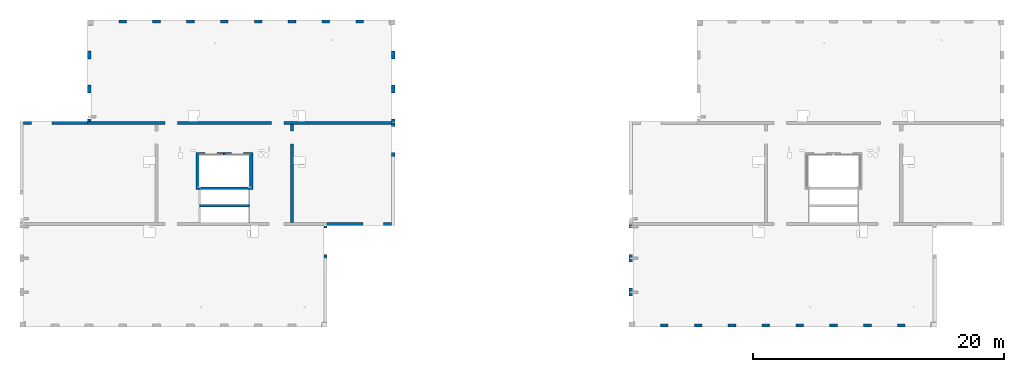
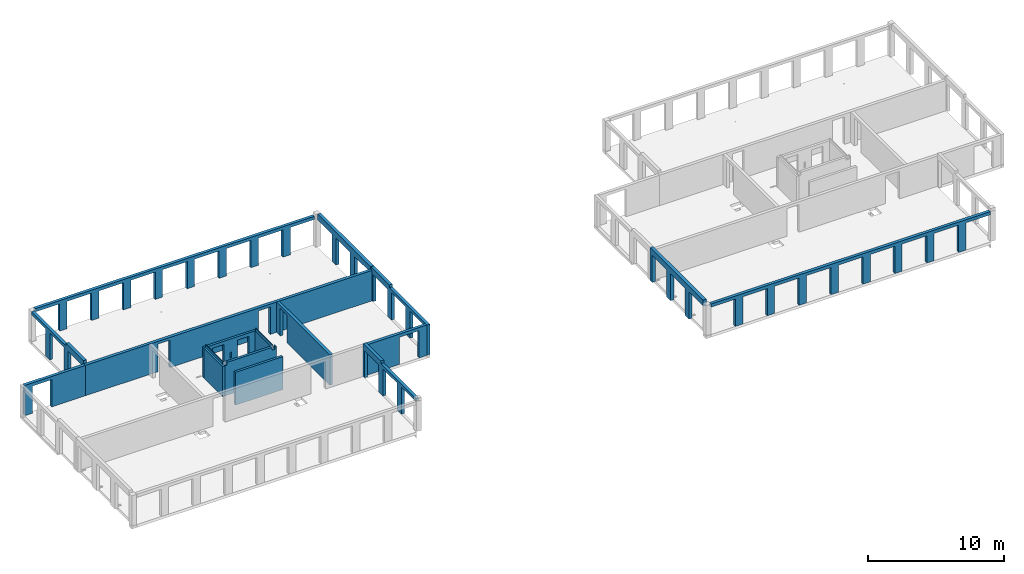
# One storey, part 3 of 8: 18 walls, 46 openings.
"""IFC2X3 building model written with IfcOpenShell, lengths in millimetres."""

from ifc_helpers import new_model, entity, si_unit, converted_unit, derived_unit, direction, frame, frame_2d, origin, origin_2d_with_axis, place, context, subcontext, project, spatial, rectangle, extrude, material, layer, layer_set, layer_usage, type_object, element, save


model = new_model("IFC2X3")

# Units and contexts
model_context = context("Model", 3, precision=0.01, world=origin(), true_north=direction((6.12303176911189e-17, 1.0)))
body_context = subcontext(model_context, "Body", "Model", "MODEL_VIEW")
ifc_project = project(units=[si_unit("LENGTHUNIT", "METRE", prefix="MILLI"), si_unit("AREAUNIT", "SQUARE_METRE"), si_unit("VOLUMEUNIT", "CUBIC_METRE"), converted_unit("PLANEANGLEUNIT", "DEGREE", entity("IfcRatioMeasure", 0.0174532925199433), si_unit("PLANEANGLEUNIT", "RADIAN"), dimensions=[0, 0, 0, 0, 0, 0, 0]), si_unit("MASSUNIT", "GRAM", prefix="KILO"), derived_unit("MASSDENSITYUNIT", [(si_unit("MASSUNIT", "GRAM", prefix="KILO"), 1), (si_unit("LENGTHUNIT", "METRE"), -3)]), si_unit("TIMEUNIT", "SECOND"), si_unit("FREQUENCYUNIT", "HERTZ"), si_unit("THERMODYNAMICTEMPERATUREUNIT", "DEGREE_CELSIUS"), derived_unit("THERMALTRANSMITTANCEUNIT", [(si_unit("MASSUNIT", "GRAM", prefix="KILO"), 1), (si_unit("THERMODYNAMICTEMPERATUREUNIT", "KELVIN"), -1), (si_unit("TIMEUNIT", "SECOND"), -3)]), derived_unit("VOLUMETRICFLOWRATEUNIT", [(si_unit("LENGTHUNIT", "METRE"), 3), (si_unit("TIMEUNIT", "SECOND"), -1)]), si_unit("ELECTRICCURRENTUNIT", "AMPERE"), si_unit("ELECTRICVOLTAGEUNIT", "VOLT"), si_unit("POWERUNIT", "WATT"), si_unit("FORCEUNIT", "NEWTON", prefix="KILO"), si_unit("ILLUMINANCEUNIT", "LUX"), si_unit("LUMINOUSFLUXUNIT", "LUMEN"), si_unit("LUMINOUSINTENSITYUNIT", "CANDELA"), derived_unit("USERDEFINED", [(si_unit("MASSUNIT", "GRAM", prefix="KILO"), -1), (si_unit("LENGTHUNIT", "METRE"), -2), (si_unit("TIMEUNIT", "SECOND"), 3), (si_unit("LUMINOUSFLUXUNIT", "LUMEN"), 1)]), derived_unit("LINEARVELOCITYUNIT", [(si_unit("LENGTHUNIT", "METRE"), 1), (si_unit("TIMEUNIT", "SECOND"), -1)]), si_unit("PRESSUREUNIT", "PASCAL"), derived_unit("USERDEFINED", [(si_unit("LENGTHUNIT", "METRE"), -2), (si_unit("MASSUNIT", "GRAM", prefix="KILO"), 1), (si_unit("TIMEUNIT", "SECOND"), -2)])], contexts=[model_context])

# Site, building, storey
site_placement = place(None, origin())
site = spatial("IfcSite", under=ifc_project, at=site_placement, Name="Default", CompositionType="ELEMENT")
building_placement = place(site_placement, origin())
building = spatial("IfcBuilding", under=site, at=building_placement, Name="niet gebruiken", CompositionType="ELEMENT")
storey_placement = place(building_placement, frame((0.0, 0.0, 39330.0)))
storey = spatial("IfcBuildingStorey", under=building, at=storey_placement, Name="13 dertiende verdieping", CompositionType="ELEMENT", Elevation=39330.0)

# Wall, opening
ifc_material_1 = material(Name="NLRS_f2_beton ihwg")
ifc_layer_1 = layer(ifc_material_1, 250.0)
ifc_layer_set_1 = layer_set([ifc_layer_1], Name="Basic Wall:NLRS_22.21_WA_beton ihwg d=250_gen")
ifc_layer_usage_1 = layer_usage(ifc_layer_set_1, "AXIS2", "NEGATIVE", 125.0)
wall_type_1 = type_object("IfcWallType", Name="Basic Wall:NLRS_22.21_WA_beton ihwg d=250_gen", PredefinedType="STANDARD", material=ifc_layer_set_1)
wall_1_placement = place(storey_placement, frame((27170.0, 45031.0, -90.0)))
wall_1 = element("IfcWallStandardCase", 1, at=wall_1_placement, inside=storey, type_object=wall_type_1, material=ifc_layer_usage_1, Name="Basic Wall:NLRS_22.21_WA_beton ihwg d=250_gen", ObjectType="Basic Wall:NLRS_22.21_WA_beton ihwg d=250_gen", context=body_context, shape_type="SweptSolid", body=[
    extrude(rectangle(XDim=5130.0, YDim=249.999999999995, at=frame_2d((2565.0, 0.0), x_axis=(-1.0, 0.0))), origin(), (0.0, 0.0, 1.0), 2719.99999999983),
])
opening_1_placement = place(wall_1_placement, origin())
element("IfcOpeningElement", 2, at=opening_1_placement, cuts=wall_1, Name="Basic Wall:NLRS_22.21_WA_beton ihwg d=250_gen", ObjectType="Opening", context=body_context, shape_type="SweptSolid", body=[
    extrude(rectangle(XDim=2440.0, YDim=1640.0, at=origin_2d_with_axis()), frame((1460.0, -1649.0, 1220.0), z_axis=(0.0, 1.0, 0.0), x_axis=(0.0, 0.0, 1.0)), (0.0, 0.0, 1.0), 3048.0),
])

ifc_layer_usage_2 = layer_usage(ifc_layer_set_1, "AXIS2", "NEGATIVE", 125.0)
wall_2_placement = place(storey_placement, frame((48600.0, 44906.0, -90.0), z_axis=(0.0, 0.0, 1.0), x_axis=(0.0, -1.0, 0.0)))
wall_2 = element("IfcWallStandardCase", 3, at=wall_2_placement, inside=storey, type_object=wall_type_1, material=ifc_layer_usage_2, Name="Basic Wall:NLRS_22.21_WA_beton ihwg d=250_gen", ObjectType="Basic Wall:NLRS_22.21_WA_beton ihwg d=250_gen", context=body_context, shape_type="SweptSolid", body=[
    extrude(rectangle(XDim=7799.99999999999, YDim=249.999999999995, at=frame_2d((3900.0, 0.0), x_axis=(-1.0, 0.0))), origin(), (0.0, 0.0, 1.0), 2719.99999999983),
])
opening_2_placement = place(wall_2_placement, origin())
element("IfcOpeningElement", 4, at=opening_2_placement, cuts=wall_2, Name="Basic Wall:NLRS_22.21_WA_beton ihwg d=250_gen", ObjectType="Opening", context=body_context, shape_type="SweptSolid", body=[
    extrude(rectangle(XDim=2470.0, YDim=1006.0, at=frame_2d((4.43378667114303e-12, 0.0), x_axis=(1.0, 0.0))), frame((1027.0, -1649.0, 1235.0), z_axis=(0.0, 1.0, 0.0), x_axis=(0.0, 0.0, 1.0)), (0.0, 0.0, 1.0), 3048.0),
])

# Wall, openings
ifc_layer_usage_3 = layer_usage(ifc_layer_set_1, "AXIS2", "NEGATIVE", 125.0)
wall_3_placement = place(storey_placement, frame((32300.0, 45031.0, -90.0)))
wall_3 = element("IfcWallStandardCase", 5, at=wall_3_placement, inside=storey, type_object=wall_type_1, material=ifc_layer_usage_3, Name="Basic Wall:NLRS_22.21_WA_beton ihwg d=250_gen", ObjectType="Basic Wall:NLRS_22.21_WA_beton ihwg d=250_gen", context=body_context, shape_type="SweptSolid", body=[
    extrude(rectangle(XDim=24250.0, YDim=249.999999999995, at=frame_2d((12125.0, 0.0), x_axis=(-1.0, 0.0))), origin(), (0.0, 0.0, 1.0), 2719.99999999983),
])
opening_3_placement = place(wall_3_placement, origin())
element("IfcOpeningElement", 6, at=opening_3_placement, cuts=wall_3, Name="Basic Wall:NLRS_22.21_WA_beton ihwg d=250_gen", ObjectType="Opening", context=body_context, shape_type="SweptSolid", body=[
    extrude(rectangle(XDim=2470.0, YDim=1006.0, at=frame_2d((-4.43378667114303e-12, 0.0), x_axis=(1.0, 0.0))), frame((15148.0, -1649.0, 1235.0), z_axis=(0.0, 1.0, 0.0), x_axis=(0.0, 0.0, 1.0)), (0.0, 0.0, 1.0), 3048.0),
])
opening_4_placement = place(wall_3_placement, origin())
element("IfcOpeningElement", 7, at=opening_4_placement, cuts=wall_3, Name="Basic Wall:NLRS_22.21_WA_beton ihwg d=250_gen", ObjectType="Opening", context=body_context, shape_type="SweptSolid", body=[
    extrude(rectangle(XDim=2470.0, YDim=1006.0, at=frame_2d((4.43378667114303e-12, 2.1600499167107e-12), x_axis=(1.0, 0.0))), frame((6652.0, -1649.0, 1235.0), z_axis=(0.0, 1.0, 0.0), x_axis=(0.0, 0.0, 1.0)), (0.0, 0.0, 1.0), 3048.0),
])

# Wall, opening
ifc_layer_usage_4 = layer_usage(ifc_layer_set_1, "AXIS2", "NEGATIVE", 125.0)
wall_4_placement = place(storey_placement, frame((51400.0, 36981.0, -90.0)))
wall_4 = element("IfcWallStandardCase", 8, at=wall_4_placement, inside=storey, type_object=wall_type_1, material=ifc_layer_usage_4, Name="Basic Wall:NLRS_22.21_WA_beton ihwg d=250_gen", ObjectType="Basic Wall:NLRS_22.21_WA_beton ihwg d=250_gen", context=body_context, shape_type="SweptSolid", body=[
    extrude(rectangle(XDim=5150.0, YDim=250.000000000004, at=frame_2d((2575.0, 0.0), x_axis=(-1.0, 0.0))), origin(), (0.0, 0.0, 1.0), 2719.99999999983),
])
opening_5_placement = place(wall_4_placement, origin())
element("IfcOpeningElement", 9, at=opening_5_placement, cuts=wall_4, Name="Basic Wall:NLRS_22.21_WA_beton ihwg d=250_gen", ObjectType="Opening", context=body_context, shape_type="SweptSolid", body=[
    extrude(rectangle(XDim=2440.0, YDim=1640.0, at=frame_2d((-4.37694325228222e-12, 0.0), x_axis=(0.0, 1.0))), frame((3670.0, -1399.0, 1220.0), z_axis=(0.0, 1.0, 0.0), x_axis=(-1.0, 0.0, 0.0)), (0.0, 0.0, 1.0), 3048.0),
])

# Wall, openings
ifc_material_2 = material(Name="NLRS_f2_beton prefab")
ifc_layer_2 = layer(ifc_material_2, 250.0)
ifc_layer_set_2 = layer_set([ifc_layer_2], Name="Basic Wall:NLRS_21.21_WA_beton prefab d=250_gen")
ifc_layer_usage_5 = layer_usage(ifc_layer_set_2, "AXIS2", "NEGATIVE", 125.0)
wall_type_2 = type_object("IfcWallType", Name="Basic Wall:NLRS_21.21_WA_beton prefab d=250_gen", PredefinedType="STANDARD", material=ifc_layer_set_2)
wall_5_placement = place(storey_placement, frame((32425.0, 52846.0, -70.0), z_axis=(0.0, 0.0, 1.0), x_axis=(0.0, -1.0, 0.0)))
wall_5 = element("IfcWallStandardCase", 10, at=wall_5_placement, inside=storey, type_object=wall_type_2, material=ifc_layer_usage_5, Name="Basic Wall:NLRS_21.21_WA_beton prefab d=250_gen", ObjectType="Basic Wall:NLRS_21.21_WA_beton prefab d=250_gen", context=body_context, shape_type="SweptSolid", body=[
    extrude(rectangle(XDim=7670.00000000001, YDim=250.000000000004, at=frame_2d((3835.0, 0.0), x_axis=(-1.0, 0.0))), origin(), (0.0, 0.0, 1.0), 2949.99999999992),
])
opening_6_placement = place(wall_5_placement, origin())
element("IfcOpeningElement", 11, at=opening_6_placement, cuts=wall_5, Name="Basic Wall:NLRS_21.21_WA_beton prefab d=250_gen", ObjectType="Opening", context=body_context, shape_type="SweptSolid", body=[
    extrude(rectangle(XDim=2420.0, YDim=2080.0, at=frame_2d((0.0, 0.0), x_axis=(0.0, 1.0))), frame((1040.0, -1399.0, 1210.0), z_axis=(0.0, 1.0, 0.0), x_axis=(-1.0, 0.0, 0.0)), (0.0, 0.0, 1.0), 3048.0),
])
opening_7_placement = place(wall_5_placement, origin())
element("IfcOpeningElement", 12, at=opening_7_placement, cuts=wall_5, Name="Basic Wall:NLRS_21.21_WA_beton prefab d=250_gen", ObjectType="Opening", context=body_context, shape_type="SweptSolid", body=[
    extrude(rectangle(XDim=2420.0, YDim=2080.0, at=frame_2d((0.0, 0.0), x_axis=(0.0, 1.0))), frame((3740.0, -1399.0, 1210.0), z_axis=(0.0, 1.0, 0.0), x_axis=(-1.0, 0.0, 0.0)), (0.0, 0.0, 1.0), 3048.0),
])
opening_8_placement = place(wall_5_placement, origin())
element("IfcOpeningElement", 13, at=opening_8_placement, cuts=wall_5, Name="Basic Wall:NLRS_21.21_WA_beton prefab d=250_gen", ObjectType="Opening", context=body_context, shape_type="SweptSolid", body=[
    extrude(rectangle(XDim=2420.0, YDim=2080.0, at=frame_2d((0.0, 0.0), x_axis=(0.0, 1.0))), frame((6440.0, -1399.0, 1210.0), z_axis=(0.0, 1.0, 0.0), x_axis=(-1.0, 0.0, 0.0)), (0.0, 0.0, 1.0), 3048.0),
])
opening_9_placement = place(wall_5_placement, origin())
element("IfcOpeningElement", 14, at=opening_9_placement, cuts=wall_5, Name="Basic Wall:NLRS_21.21_WA_beton prefab d=250_gen", ObjectType="Opening", context=body_context, shape_type="SweptSolid", body=[
    extrude(rectangle(XDim=250.000000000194, YDim=5089.99999999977, at=frame_2d((4.32009983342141e-12, 4.32720526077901e-12), x_axis=(0.0, 1.0))), frame((2545.0, 125.0, 2825.0), z_axis=(0.0, -1.0, 0.0), x_axis=(-1.0, 0.0, 0.0)), (0.0, 0.0, 1.0), 250.0),
])

ifc_layer_usage_6 = layer_usage(ifc_layer_set_2, "AXIS2", "NEGATIVE", 125.0)
wall_6_placement = place(storey_placement, frame((56675.0, 45046.0, -70.0), z_axis=(0.0, 0.0, 1.0), x_axis=(0.0, -1.0, 0.0)))
wall_6 = element("IfcWallStandardCase", 15, at=wall_6_placement, inside=storey, type_object=wall_type_2, material=ifc_layer_usage_6, Name="Basic Wall:NLRS_21.21_WA_beton prefab d=250_gen", ObjectType="Basic Wall:NLRS_21.21_WA_beton prefab d=250_gen", context=body_context, shape_type="SweptSolid", body=[
    extrude(rectangle(XDim=8189.99999999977, YDim=249.999999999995, at=frame_2d((4094.99999999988, 0.0), x_axis=(-1.0, 0.0))), origin(), (0.0, 0.0, 1.0), 2949.99999999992),
])
opening_10_placement = place(wall_6_placement, origin())
element("IfcOpeningElement", 16, at=opening_10_placement, cuts=wall_6, Name="Basic Wall:NLRS_21.21_WA_beton prefab d=250_gen", ObjectType="Opening", context=body_context, shape_type="SweptSolid", body=[
    extrude(rectangle(XDim=2420.0, YDim=2080.0, at=frame_2d((0.0, 0.0), x_axis=(0.0, 1.0))), frame((1340.0, -1399.0, 1210.0), z_axis=(0.0, 1.0, 0.0), x_axis=(-1.0, 0.0, 0.0)), (0.0, 0.0, 1.0), 3048.0),
])
opening_11_placement = place(wall_6_placement, origin())
element("IfcOpeningElement", 17, at=opening_11_placement, cuts=wall_6, Name="Basic Wall:NLRS_21.21_WA_beton prefab d=250_gen", ObjectType="Opening", context=body_context, shape_type="SweptSolid", body=[
    extrude(rectangle(XDim=2420.0, YDim=2080.0, at=frame_2d((0.0, 0.0), x_axis=(0.0, 1.0))), frame((4040.0, -1399.0, 1210.0), z_axis=(0.0, 1.0, 0.0), x_axis=(-1.0, 0.0, 0.0)), (0.0, 0.0, 1.0), 3048.0),
])
opening_12_placement = place(wall_6_placement, origin())
element("IfcOpeningElement", 18, at=opening_12_placement, cuts=wall_6, Name="Basic Wall:NLRS_21.21_WA_beton prefab d=250_gen", ObjectType="Opening", context=body_context, shape_type="SweptSolid", body=[
    extrude(rectangle(XDim=2420.0, YDim=2080.0, at=frame_2d((0.0, 0.0), x_axis=(0.0, 1.0))), frame((6740.0, -1399.0, 1210.0), z_axis=(0.0, 1.0, 0.0), x_axis=(-1.0, 0.0, 0.0)), (0.0, 0.0, 1.0), 3048.0),
])
opening_13_placement = place(wall_6_placement, origin())
element("IfcOpeningElement", 19, at=opening_13_placement, cuts=wall_6, Name="Basic Wall:NLRS_21.21_WA_beton prefab d=250_gen", ObjectType="Opening", context=body_context, shape_type="SweptSolid", body=[
    extrude(rectangle(XDim=249.999999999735, YDim=5500.0000000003, at=frame_2d((0.0, -4.32009983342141e-12), x_axis=(1.0, 0.0))), frame((5440.0, 125.0, 2825.0), z_axis=(0.0, -1.0, 0.0), x_axis=(0.0, 0.0, 1.0)), (0.0, 0.0, 1.0), 250.0),
])

ifc_layer_usage_7 = layer_usage(ifc_layer_set_2, "AXIS2", "NEGATIVE", 125.0)
wall_7_placement = place(storey_placement, frame((51275.0, 29166.0, -70.0), z_axis=(0.0, 0.0, 1.0), x_axis=(0.0, 1.0, 0.0)))
wall_7 = element("IfcWallStandardCase", 20, at=wall_7_placement, inside=storey, type_object=wall_type_2, material=ifc_layer_usage_7, Name="Basic Wall:NLRS_21.21_WA_beton prefab d=250_gen", ObjectType="Basic Wall:NLRS_21.21_WA_beton prefab d=250_gen", context=body_context, shape_type="SweptSolid", body=[
    extrude(rectangle(XDim=7669.99999999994, YDim=249.999999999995, at=frame_2d((3834.99999999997, 0.0), x_axis=(-1.0, 0.0))), origin(), (0.0, 0.0, 1.0), 2949.99999999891),
])
opening_14_placement = place(wall_7_placement, origin())
element("IfcOpeningElement", 21, at=opening_14_placement, cuts=wall_7, Name="Basic Wall:NLRS_21.21_WA_beton prefab d=250_gen", ObjectType="Opening", context=body_context, shape_type="SweptSolid", body=[
    extrude(rectangle(XDim=2420.0, YDim=2080.0, at=frame_2d((-2.1600499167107e-12, 0.0), x_axis=(0.0, 1.0))), frame((1040.0, -1399.0, 1210.0), z_axis=(0.0, 1.0, 0.0), x_axis=(-1.0, 0.0, 0.0)), (0.0, 0.0, 1.0), 3048.0),
])
opening_15_placement = place(wall_7_placement, origin())
element("IfcOpeningElement", 22, at=opening_15_placement, cuts=wall_7, Name="Basic Wall:NLRS_21.21_WA_beton prefab d=250_gen", ObjectType="Opening", context=body_context, shape_type="SweptSolid", body=[
    extrude(rectangle(XDim=2420.0, YDim=2080.0, at=frame_2d((2.1600499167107e-12, 0.0), x_axis=(0.0, 1.0))), frame((6440.0, -1399.0, 1210.0), z_axis=(0.0, 1.0, 0.0), x_axis=(-1.0, 0.0, 0.0)), (0.0, 0.0, 1.0), 3048.0),
])
opening_16_placement = place(wall_7_placement, origin())
element("IfcOpeningElement", 23, at=opening_16_placement, cuts=wall_7, Name="Basic Wall:NLRS_21.21_WA_beton prefab d=250_gen", ObjectType="Opening", context=body_context, shape_type="SweptSolid", body=[
    extrude(rectangle(XDim=2420.0, YDim=2080.0, at=frame_2d((2.1600499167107e-12, 0.0), x_axis=(0.0, 1.0))), frame((3740.0, -1399.0, 1210.0), z_axis=(0.0, 1.0, 0.0), x_axis=(-1.0, 0.0, 0.0)), (0.0, 0.0, 1.0), 3048.0),
])
opening_17_placement = place(wall_7_placement, origin())
element("IfcOpeningElement", 24, at=opening_17_placement, cuts=wall_7, Name="Basic Wall:NLRS_21.21_WA_beton prefab d=250_gen", ObjectType="Opening", context=body_context, shape_type="SweptSolid", body=[
    extrude(rectangle(XDim=249.999999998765, YDim=5090.00000000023, at=frame_2d((0.0, 0.0), x_axis=(0.0, 1.0))), frame((2545.0, 125.0, 2825.0), z_axis=(0.0, -1.0, 0.0), x_axis=(-1.0, 0.0, 0.0)), (0.0, 0.0, 1.0), 250.0),
])

# Wall
ifc_layer_3 = layer(ifc_material_2, 200.0)
ifc_layer_set_3 = layer_set([ifc_layer_3], Name="Basic Wall:NLRS_21.21_WA_beton prefab d=200_gen")
ifc_layer_usage_8 = layer_usage(ifc_layer_set_3, "AXIS2", "NEGATIVE", 100.0)
wall_type_3 = type_object("IfcWallType", Name="Basic Wall:NLRS_21.21_WA_beton prefab d=200_gen", PredefinedType="STANDARD", material=ifc_layer_set_3)
wall_8_placement = place(storey_placement, frame((41200.0, 38426.0, -70.0)))
element("IfcWallStandardCase", 25, at=wall_8_placement, inside=storey, type_object=wall_type_3, material=ifc_layer_usage_8, Name="Basic Wall:NLRS_21.21_WA_beton prefab d=200_gen", ObjectType="Basic Wall:NLRS_21.21_WA_beton prefab d=200_gen", context=body_context, shape_type="SweptSolid", body=[
    extrude(rectangle(XDim=3999.99999999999, YDim=199.999999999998, at=frame_2d((2000.0, 0.0), x_axis=(-1.0, 0.0))), origin(), (0.0, 0.0, 1.0), 2950.00000000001),
])

# Wall, openings
ifc_layer_4 = layer(ifc_material_2, 200.0)
ifc_layer_set_4 = layer_set([ifc_layer_4], Name="Basic Wall:NLRS_22.21_WA_beton prefab d=200_gen")
ifc_layer_usage_9 = layer_usage(ifc_layer_set_4, "AXIS2", "NEGATIVE", 100.0)
wall_type_4 = type_object("IfcWallType", Name="Basic Wall:NLRS_22.21_WA_beton prefab d=200_gen", PredefinedType="STANDARD", material=ifc_layer_set_4)
wall_9_placement = place(storey_placement, frame((40925.0, 42596.0, -70.0)))
wall_9 = element("IfcWallStandardCase", 26, at=wall_9_placement, inside=storey, type_object=wall_type_4, material=ifc_layer_usage_9, Name="Basic Wall:NLRS_22.21_WA_beton prefab d=200_gen", ObjectType="Basic Wall:NLRS_22.21_WA_beton prefab d=200_gen", context=body_context, shape_type="SweptSolid", body=[
    extrude(rectangle(XDim=4549.99999999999, YDim=200.000000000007, at=frame_2d((2274.99999999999, 7.8159700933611e-13), x_axis=(-1.0, 0.0))), origin(), (0.0, 0.0, 1.0), 2700.00000000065),
])
opening_18_placement = place(wall_9_placement, origin())
element("IfcOpeningElement", 27, at=opening_18_placement, cuts=wall_9, Name="Basic Wall:NLRS_22.21_WA_beton prefab d=200_gen", ObjectType="Opening", context=body_context, shape_type="SweptSolid", body=[
    extrude(rectangle(XDim=2430.0, YDim=980.000000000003, at=origin_2d_with_axis()), frame((1219.99984910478, -1624.0, 1195.0), z_axis=(0.0, 1.0, 0.0), x_axis=(0.0, 0.0, 1.0)), (0.0, 0.0, 1.0), 3048.0),
])
opening_19_placement = place(wall_9_placement, origin())
element("IfcOpeningElement", 28, at=opening_19_placement, cuts=wall_9, Name="Basic Wall:NLRS_22.21_WA_beton prefab d=200_gen", ObjectType="Opening", context=body_context, shape_type="SweptSolid", body=[
    extrude(rectangle(XDim=2430.0, YDim=980.000000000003, at=origin_2d_with_axis()), frame((3329.99984910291, -1624.0, 1195.0), z_axis=(0.0, 1.0, 0.0), x_axis=(0.0, 0.0, 1.0)), (0.0, 0.0, 1.0), 3048.0),
])
opening_20_placement = place(wall_9_placement, origin())
element("IfcOpeningElement", 29, at=opening_20_placement, cuts=wall_9, Name="Basic Wall:NLRS_22.21_WA_beton prefab d=200_gen", ObjectType="Opening", context=body_context, shape_type="SweptSolid", body=[
    extrude(rectangle(XDim=505.000000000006, YDim=135.000000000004, at=frame_2d((-4.33431068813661e-12, 0.0), x_axis=(1.0, 0.0))), frame((2275.0, -1624.0, 1272.49999999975), z_axis=(0.0, 1.0, 0.0), x_axis=(0.0, 0.0, 1.0)), (0.0, 0.0, 1.0), 3048.0),
])

# Wall
ifc_layer_usage_10 = layer_usage(ifc_layer_set_4, "AXIS2", "NEGATIVE", 100.0)
wall_10_placement = place(storey_placement, frame((41025.0, 42496.0, -70.0), z_axis=(0.0, 0.0, 1.0), x_axis=(0.0, -1.0, 0.0)))
element("IfcWallStandardCase", 30, at=wall_10_placement, inside=storey, type_object=wall_type_4, material=ifc_layer_usage_10, Name="Basic Wall:NLRS_22.21_WA_beton prefab d=200_gen", ObjectType="Basic Wall:NLRS_22.21_WA_beton prefab d=200_gen", context=body_context, shape_type="SweptSolid", body=[
    extrude(rectangle(XDim=2749.99999999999, YDim=200.000000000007, at=frame_2d((1375.0, 0.0), x_axis=(-1.0, 0.0))), origin(), (0.0, 0.0, 1.0), 2699.99999999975),
])

# Wall, openings
ifc_layer_usage_11 = layer_usage(ifc_layer_set_4, "AXIS2", "NEGATIVE", 100.0)
wall_11_placement = place(storey_placement, frame((45475.0, 39846.0, -70.0), z_axis=(0.0, 0.0, 1.0), x_axis=(-1.0, 0.0, 0.0)))
wall_11 = element("IfcWallStandardCase", 31, at=wall_11_placement, inside=storey, type_object=wall_type_4, material=ifc_layer_usage_11, Name="Basic Wall:NLRS_22.21_WA_beton prefab d=200_gen", ObjectType="Basic Wall:NLRS_22.21_WA_beton prefab d=200_gen", context=body_context, shape_type="SweptSolid", body=[
    extrude(rectangle(XDim=4349.99999999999, YDim=200.000000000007, at=frame_2d((2174.99999999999, 0.0), x_axis=(-1.0, 0.0))), origin(), (0.0, 0.0, 1.0), 2949.99999999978),
])
opening_21_placement = place(wall_11_placement, origin())
element("IfcOpeningElement", 32, at=opening_21_placement, cuts=wall_11, Name="Basic Wall:NLRS_22.21_WA_beton prefab d=200_gen", ObjectType="Opening", context=body_context, shape_type="SweptSolid", body=[
    extrude(rectangle(XDim=249.999999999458, YDim=274.9999671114, at=frame_2d((0.0, -4.33431068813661e-12), x_axis=(1.0, 0.0))), frame((4312.50001644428, 100.0, 2825.0), z_axis=(0.0, -1.0, 0.0), x_axis=(0.0, 0.0, 1.0)), (0.0, 0.0, 1.0), 200.0),
])
opening_22_placement = place(wall_11_placement, origin())
element("IfcOpeningElement", 33, at=opening_22_placement, cuts=wall_11, Name="Basic Wall:NLRS_22.21_WA_beton prefab d=200_gen", ObjectType="Opening", context=body_context, shape_type="SweptSolid", body=[
    extrude(rectangle(XDim=249.999999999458, YDim=274.999967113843, at=frame_2d((-4.32009983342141e-12, 0.0), x_axis=(0.0, 1.0))), frame((237.499983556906, 100.0, 2825.0), z_axis=(0.0, -1.0, 0.0), x_axis=(-1.0, 0.0, 0.0)), (0.0, 0.0, 1.0), 200.0),
])

# Wall
ifc_layer_usage_12 = layer_usage(ifc_layer_set_4, "AXIS2", "NEGATIVE", 100.0)
wall_12_placement = place(storey_placement, frame((45375.0, 39946.0, -70.0), z_axis=(0.0, 0.0, 1.0), x_axis=(0.0, 1.0, 0.0)))
element("IfcWallStandardCase", 34, at=wall_12_placement, inside=storey, type_object=wall_type_4, material=ifc_layer_usage_12, Name="Basic Wall:NLRS_22.21_WA_beton prefab d=200_gen", ObjectType="Basic Wall:NLRS_22.21_WA_beton prefab d=200_gen", context=body_context, shape_type="SweptSolid", body=[
    extrude(rectangle(XDim=2549.99999999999, YDim=200.000000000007, at=frame_2d((1275.0, 0.0), x_axis=(-1.0, 0.0))), origin(), (0.0, 0.0, 1.0), 2699.99999999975),
])

# Wall, openings
ifc_layer_5 = layer(ifc_material_1, 250.0)
ifc_layer_set_5 = layer_set([ifc_layer_5], Name="Basic Wall:NLRS_21.21_WA_beton ihwg d=250_gen")
ifc_layer_usage_13 = layer_usage(ifc_layer_set_5, "AXIS2", "NEGATIVE", 125.0)
wall_type_5 = type_object("IfcWallType", Name="Basic Wall:NLRS_21.21_WA_beton ihwg d=250_gen", PredefinedType="STANDARD", material=ifc_layer_set_5)
wall_13_placement = place(storey_placement, frame((75930.0, 28881.0, -90.0)))
wall_13 = element("IfcWallStandardCase", 35, at=wall_13_placement, inside=storey, type_object=wall_type_5, material=ifc_layer_usage_13, Name="Basic Wall:NLRS_21.21_WA_beton ihwg d=250_gen", ObjectType="Basic Wall:NLRS_21.21_WA_beton ihwg d=250_gen", context=body_context, shape_type="SweptSolid", body=[
    extrude(rectangle(XDim=23640.0000000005, YDim=250.000000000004, at=frame_2d((11820.0000000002, -8.66862137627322e-13), x_axis=(-1.0, 0.0))), origin(), (0.0, 0.0, 1.0), 2720.00000000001),
])
opening_23_placement = place(wall_13_placement, origin())
element("IfcOpeningElement", 36, at=opening_23_placement, cuts=wall_13, Name="Basic Wall:NLRS_21.21_WA_beton ihwg d=250_gen", ObjectType="Opening", context=body_context, shape_type="SweptSolid", body=[
    extrude(rectangle(XDim=2440.0, YDim=2080.0, at=frame_2d((8.64019966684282e-12, 0.0), x_axis=(0.0, 1.0))), frame((22620.0, -1399.0, 1220.0), z_axis=(0.0, 1.0, 0.0), x_axis=(-1.0, 0.0, 0.0)), (0.0, 0.0, 1.0), 3048.0),
])
opening_24_placement = place(wall_13_placement, origin())
element("IfcOpeningElement", 37, at=opening_24_placement, cuts=wall_13, Name="Basic Wall:NLRS_21.21_WA_beton ihwg d=250_gen", ObjectType="Opening", context=body_context, shape_type="SweptSolid", body=[
    extrude(rectangle(XDim=2440.0, YDim=2080.0, at=frame_2d((8.64019966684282e-12, 0.0), x_axis=(0.0, 1.0))), frame((19920.0, -1399.0, 1220.0), z_axis=(0.0, 1.0, 0.0), x_axis=(-1.0, 0.0, 0.0)), (0.0, 0.0, 1.0), 3048.0),
])
opening_25_placement = place(wall_13_placement, origin())
element("IfcOpeningElement", 38, at=opening_25_placement, cuts=wall_13, Name="Basic Wall:NLRS_21.21_WA_beton ihwg d=250_gen", ObjectType="Opening", context=body_context, shape_type="SweptSolid", body=[
    extrude(rectangle(XDim=2440.0, YDim=2080.0, at=frame_2d((8.64019966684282e-12, 0.0), x_axis=(0.0, 1.0))), frame((17220.0, -1399.0, 1220.0), z_axis=(0.0, 1.0, 0.0), x_axis=(-1.0, 0.0, 0.0)), (0.0, 0.0, 1.0), 3048.0),
])
opening_26_placement = place(wall_13_placement, origin())
element("IfcOpeningElement", 39, at=opening_26_placement, cuts=wall_13, Name="Basic Wall:NLRS_21.21_WA_beton ihwg d=250_gen", ObjectType="Opening", context=body_context, shape_type="SweptSolid", body=[
    extrude(rectangle(XDim=2440.0, YDim=2080.0, at=frame_2d((-8.64019966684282e-12, 0.0), x_axis=(0.0, 1.0))), frame((14520.0, -1399.0, 1220.0), z_axis=(0.0, 1.0, 0.0), x_axis=(-1.0, 0.0, 0.0)), (0.0, 0.0, 1.0), 3048.0),
])
opening_27_placement = place(wall_13_placement, origin())
element("IfcOpeningElement", 40, at=opening_27_placement, cuts=wall_13, Name="Basic Wall:NLRS_21.21_WA_beton ihwg d=250_gen", ObjectType="Opening", context=body_context, shape_type="SweptSolid", body=[
    extrude(rectangle(XDim=2440.0, YDim=2080.0, at=frame_2d((8.64019966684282e-12, 0.0), x_axis=(0.0, 1.0))), frame((11820.0, -1399.0, 1220.0), z_axis=(0.0, 1.0, 0.0), x_axis=(-1.0, 0.0, 0.0)), (0.0, 0.0, 1.0), 3048.0),
])
opening_28_placement = place(wall_13_placement, origin())
element("IfcOpeningElement", 41, at=opening_28_placement, cuts=wall_13, Name="Basic Wall:NLRS_21.21_WA_beton ihwg d=250_gen", ObjectType="Opening", context=body_context, shape_type="SweptSolid", body=[
    extrude(rectangle(XDim=2440.0, YDim=2080.0, at=frame_2d((8.64019966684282e-12, 0.0), x_axis=(0.0, 1.0))), frame((9120.0, -1399.0, 1220.0), z_axis=(0.0, 1.0, 0.0), x_axis=(-1.0, 0.0, 0.0)), (0.0, 0.0, 1.0), 3048.0),
])
opening_29_placement = place(wall_13_placement, origin())
element("IfcOpeningElement", 42, at=opening_29_placement, cuts=wall_13, Name="Basic Wall:NLRS_21.21_WA_beton ihwg d=250_gen", ObjectType="Opening", context=body_context, shape_type="SweptSolid", body=[
    extrude(rectangle(XDim=2440.0, YDim=2080.0, at=frame_2d((-8.64019966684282e-12, 0.0), x_axis=(0.0, 1.0))), frame((6420.0, -1399.0, 1220.0), z_axis=(0.0, 1.0, 0.0), x_axis=(-1.0, 0.0, 0.0)), (0.0, 0.0, 1.0), 3048.0),
])
opening_30_placement = place(wall_13_placement, origin())
element("IfcOpeningElement", 43, at=opening_30_placement, cuts=wall_13, Name="Basic Wall:NLRS_21.21_WA_beton ihwg d=250_gen", ObjectType="Opening", context=body_context, shape_type="SweptSolid", body=[
    extrude(rectangle(XDim=2440.0, YDim=2080.0, at=frame_2d((-8.64019966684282e-12, 0.0), x_axis=(0.0, 1.0))), frame((3720.0, -1399.0, 1220.0), z_axis=(0.0, 1.0, 0.0), x_axis=(-1.0, 0.0, 0.0)), (0.0, 0.0, 1.0), 3048.0),
])
opening_31_placement = place(wall_13_placement, origin())
element("IfcOpeningElement", 44, at=opening_31_placement, cuts=wall_13, Name="Basic Wall:NLRS_21.21_WA_beton ihwg d=250_gen", ObjectType="Opening", context=body_context, shape_type="SweptSolid", body=[
    extrude(rectangle(XDim=2440.0, YDim=2080.0, at=frame_2d((0.0, 0.0), x_axis=(0.0, 1.0))), frame((1020.0, -1399.0, 1220.0), z_axis=(0.0, 1.0, 0.0), x_axis=(-1.0, 0.0, 0.0)), (0.0, 0.0, 1.0), 3048.0),
])

ifc_layer_usage_14 = layer_usage(ifc_layer_set_5, "AXIS2", "NEGATIVE", 125.0)
wall_14_placement = place(storey_placement, frame((56370.0, 53131.0, -90.0), z_axis=(0.0, 0.0, 1.0), x_axis=(-1.0, 0.0, 0.0)))
wall_14 = element("IfcWallStandardCase", 45, at=wall_14_placement, inside=storey, type_object=wall_type_5, material=ifc_layer_usage_14, Name="Basic Wall:NLRS_21.21_WA_beton ihwg d=250_gen", ObjectType="Basic Wall:NLRS_21.21_WA_beton ihwg d=250_gen", context=body_context, shape_type="SweptSolid", body=[
    extrude(rectangle(XDim=23640.0000000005, YDim=249.999999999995, at=frame_2d((11820.0000000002, 5.82645043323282e-13), x_axis=(-1.0, 0.0))), origin(), (0.0, 0.0, 1.0), 2720.00000000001),
])
opening_32_placement = place(wall_14_placement, origin())
element("IfcOpeningElement", 46, at=opening_32_placement, cuts=wall_14, Name="Basic Wall:NLRS_21.21_WA_beton ihwg d=250_gen", ObjectType="Opening", context=body_context, shape_type="SweptSolid", body=[
    extrude(rectangle(XDim=2440.0, YDim=2080.0, at=frame_2d((-2.1600499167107e-12, 0.0), x_axis=(0.0, 1.0))), frame((22620.0, -1399.0, 1220.0), z_axis=(0.0, 1.0, 0.0), x_axis=(-1.0, 0.0, 0.0)), (0.0, 0.0, 1.0), 3048.0),
])
opening_33_placement = place(wall_14_placement, origin())
element("IfcOpeningElement", 47, at=opening_33_placement, cuts=wall_14, Name="Basic Wall:NLRS_21.21_WA_beton ihwg d=250_gen", ObjectType="Opening", context=body_context, shape_type="SweptSolid", body=[
    extrude(rectangle(XDim=2440.0, YDim=2080.0, at=frame_2d((2.1600499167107e-12, 0.0), x_axis=(0.0, 1.0))), frame((19920.0, -1399.0, 1220.0), z_axis=(0.0, 1.0, 0.0), x_axis=(-1.0, 0.0, 0.0)), (0.0, 0.0, 1.0), 3048.0),
])
opening_34_placement = place(wall_14_placement, origin())
element("IfcOpeningElement", 48, at=opening_34_placement, cuts=wall_14, Name="Basic Wall:NLRS_21.21_WA_beton ihwg d=250_gen", ObjectType="Opening", context=body_context, shape_type="SweptSolid", body=[
    extrude(rectangle(XDim=2440.0, YDim=2079.99999999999, at=frame_2d((2.1600499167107e-12, 0.0), x_axis=(0.0, 1.0))), frame((17220.0, -1399.0, 1220.0), z_axis=(0.0, 1.0, 0.0), x_axis=(-1.0, 0.0, 0.0)), (0.0, 0.0, 1.0), 3048.0),
])
opening_35_placement = place(wall_14_placement, origin())
element("IfcOpeningElement", 49, at=opening_35_placement, cuts=wall_14, Name="Basic Wall:NLRS_21.21_WA_beton ihwg d=250_gen", ObjectType="Opening", context=body_context, shape_type="SweptSolid", body=[
    extrude(rectangle(XDim=2440.0, YDim=2080.0, at=frame_2d((0.0, 0.0), x_axis=(0.0, 1.0))), frame((14520.0, -1399.0, 1220.0), z_axis=(0.0, 1.0, 0.0), x_axis=(-1.0, 0.0, 0.0)), (0.0, 0.0, 1.0), 3048.0),
])
opening_36_placement = place(wall_14_placement, origin())
element("IfcOpeningElement", 50, at=opening_36_placement, cuts=wall_14, Name="Basic Wall:NLRS_21.21_WA_beton ihwg d=250_gen", ObjectType="Opening", context=body_context, shape_type="SweptSolid", body=[
    extrude(rectangle(XDim=2440.0, YDim=2080.0, at=frame_2d((0.0, 0.0), x_axis=(0.0, 1.0))), frame((11820.0, -1399.0, 1220.0), z_axis=(0.0, 1.0, 0.0), x_axis=(-1.0, 0.0, 0.0)), (0.0, 0.0, 1.0), 3048.0),
])
opening_37_placement = place(wall_14_placement, origin())
element("IfcOpeningElement", 51, at=opening_37_placement, cuts=wall_14, Name="Basic Wall:NLRS_21.21_WA_beton ihwg d=250_gen", ObjectType="Opening", context=body_context, shape_type="SweptSolid", body=[
    extrude(rectangle(XDim=2440.0, YDim=2080.0, at=frame_2d((0.0, 0.0), x_axis=(0.0, 1.0))), frame((9120.0, -1399.0, 1220.0), z_axis=(0.0, 1.0, 0.0), x_axis=(-1.0, 0.0, 0.0)), (0.0, 0.0, 1.0), 3048.0),
])
opening_38_placement = place(wall_14_placement, origin())
element("IfcOpeningElement", 52, at=opening_38_placement, cuts=wall_14, Name="Basic Wall:NLRS_21.21_WA_beton ihwg d=250_gen", ObjectType="Opening", context=body_context, shape_type="SweptSolid", body=[
    extrude(rectangle(XDim=2440.0, YDim=2080.0, at=frame_2d((0.0, 0.0), x_axis=(0.0, 1.0))), frame((6420.0, -1399.0, 1220.0), z_axis=(0.0, 1.0, 0.0), x_axis=(-1.0, 0.0, 0.0)), (0.0, 0.0, 1.0), 3048.0),
])
opening_39_placement = place(wall_14_placement, origin())
element("IfcOpeningElement", 53, at=opening_39_placement, cuts=wall_14, Name="Basic Wall:NLRS_21.21_WA_beton ihwg d=250_gen", ObjectType="Opening", context=body_context, shape_type="SweptSolid", body=[
    extrude(rectangle(XDim=2440.0, YDim=2080.0, at=frame_2d((0.0, 0.0), x_axis=(0.0, 1.0))), frame((3720.0, -1399.0, 1220.0), z_axis=(0.0, 1.0, 0.0), x_axis=(-1.0, 0.0, 0.0)), (0.0, 0.0, 1.0), 3048.0),
])
opening_40_placement = place(wall_14_placement, origin())
element("IfcOpeningElement", 54, at=opening_40_placement, cuts=wall_14, Name="Basic Wall:NLRS_21.21_WA_beton ihwg d=250_gen", ObjectType="Opening", context=body_context, shape_type="SweptSolid", body=[
    extrude(rectangle(XDim=2440.0, YDim=2080.0, at=frame_2d((8.64019966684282e-12, 0.0), x_axis=(0.0, 1.0))), frame((1020.0, -1399.0, 1220.0), z_axis=(0.0, 1.0, 0.0), x_axis=(-1.0, 0.0, 0.0)), (0.0, 0.0, 1.0), 3048.0),
])

ifc_layer_6 = layer(ifc_material_2, 270.0)
ifc_layer_set_6 = layer_set([ifc_layer_6], Name="Basic Wall:NLRS_21.21_WA_beton prefab d=270_gen")
ifc_layer_usage_15 = layer_usage(ifc_layer_set_6, "AXIS2", "NEGATIVE", 135.0)
wall_type_6 = type_object("IfcWallType", Name="Basic Wall:NLRS_21.21_WA_beton prefab d=270_gen", PredefinedType="STANDARD", material=ifc_layer_set_6)
wall_15_placement = place(storey_placement, frame((75635.0, 36946.0, -70.0), z_axis=(0.0, 0.0, 1.0), x_axis=(0.0, -1.0, 0.0)))
wall_15 = element("IfcWallStandardCase", 55, at=wall_15_placement, inside=storey, type_object=wall_type_6, material=ifc_layer_usage_15, Name="Basic Wall:NLRS_21.21_WA_beton prefab d=270_gen", ObjectType="Basic Wall:NLRS_21.21_WA_beton prefab d=270_gen", context=body_context, shape_type="SweptSolid", body=[
    extrude(rectangle(XDim=7779.99999999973, YDim=270.000000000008, at=frame_2d((3889.99999999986, 0.0), x_axis=(-1.0, 0.0))), origin(), (0.0, 0.0, 1.0), 2949.99999999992),
])
opening_41_placement = place(wall_15_placement, origin())
element("IfcOpeningElement", 56, at=opening_41_placement, cuts=wall_15, Name="Basic Wall:NLRS_21.21_WA_beton prefab d=270_gen", ObjectType="Opening", context=body_context, shape_type="SweptSolid", body=[
    extrude(rectangle(XDim=2420.0, YDim=2080.0, at=frame_2d((-2.1600499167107e-12, 0.0), x_axis=(0.0, 1.0))), frame((1340.0, -1389.0, 1210.0), z_axis=(0.0, 1.0, 0.0), x_axis=(-1.0, 0.0, 0.0)), (0.0, 0.0, 1.0), 3048.0),
])
opening_42_placement = place(wall_15_placement, origin())
element("IfcOpeningElement", 57, at=opening_42_placement, cuts=wall_15, Name="Basic Wall:NLRS_21.21_WA_beton prefab d=270_gen", ObjectType="Opening", context=body_context, shape_type="SweptSolid", body=[
    extrude(rectangle(XDim=2420.0, YDim=2080.0, at=frame_2d((2.1600499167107e-12, 0.0), x_axis=(0.0, 1.0))), frame((4040.0, -1389.0, 1210.0), z_axis=(0.0, 1.0, 0.0), x_axis=(-1.0, 0.0, 0.0)), (0.0, 0.0, 1.0), 3048.0),
])
opening_43_placement = place(wall_15_placement, origin())
element("IfcOpeningElement", 58, at=opening_43_placement, cuts=wall_15, Name="Basic Wall:NLRS_21.21_WA_beton prefab d=270_gen", ObjectType="Opening", context=body_context, shape_type="SweptSolid", body=[
    extrude(rectangle(XDim=2420.0, YDim=2080.0, at=frame_2d((2.1600499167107e-12, 0.0), x_axis=(0.0, 1.0))), frame((6740.0, -1389.0, 1210.0), z_axis=(0.0, 1.0, 0.0), x_axis=(-1.0, 0.0, 0.0)), (0.0, 0.0, 1.0), 3048.0),
])

ifc_layer_usage_16 = layer_usage(ifc_layer_set_6, "AXIS2", "NEGATIVE", 135.0)
wall_16_placement = place(storey_placement, frame((56665.0, 52846.0, -70.0), z_axis=(0.0, 0.0, 1.0), x_axis=(0.0, -1.0, 0.0)))
wall_16 = element("IfcWallStandardCase", 59, at=wall_16_placement, inside=storey, type_object=wall_type_6, material=ifc_layer_usage_16, Name="Basic Wall:NLRS_21.21_WA_beton prefab d=270_gen", ObjectType="Basic Wall:NLRS_21.21_WA_beton prefab d=270_gen", context=body_context, shape_type="SweptSolid", body=[
    extrude(rectangle(XDim=7780.00000000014, YDim=270.000000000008, at=frame_2d((3890.00000000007, 0.0), x_axis=(-1.0, 0.0))), origin(), (0.0, 0.0, 1.0), 2949.99999999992),
])
opening_44_placement = place(wall_16_placement, origin())
element("IfcOpeningElement", 60, at=opening_44_placement, cuts=wall_16, Name="Basic Wall:NLRS_21.21_WA_beton prefab d=270_gen", ObjectType="Opening", context=body_context, shape_type="SweptSolid", body=[
    extrude(rectangle(XDim=2420.0, YDim=2080.0, at=frame_2d((8.64019966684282e-12, 0.0), x_axis=(0.0, 1.0))), frame((1040.0, -1389.0, 1210.0), z_axis=(0.0, 1.0, 0.0), x_axis=(-1.0, 0.0, 0.0)), (0.0, 0.0, 1.0), 3048.0),
])
opening_45_placement = place(wall_16_placement, origin())
element("IfcOpeningElement", 61, at=opening_45_placement, cuts=wall_16, Name="Basic Wall:NLRS_21.21_WA_beton prefab d=270_gen", ObjectType="Opening", context=body_context, shape_type="SweptSolid", body=[
    extrude(rectangle(XDim=2420.0, YDim=2080.0, at=frame_2d((0.0, 0.0), x_axis=(0.0, 1.0))), frame((3740.0, -1389.0, 1210.0), z_axis=(0.0, 1.0, 0.0), x_axis=(-1.0, 0.0, 0.0)), (0.0, 0.0, 1.0), 3048.0),
])
opening_46_placement = place(wall_16_placement, origin())
element("IfcOpeningElement", 62, at=opening_46_placement, cuts=wall_16, Name="Basic Wall:NLRS_21.21_WA_beton prefab d=270_gen", ObjectType="Opening", context=body_context, shape_type="SweptSolid", body=[
    extrude(rectangle(XDim=2420.0, YDim=2080.0, at=frame_2d((0.0, 0.0), x_axis=(0.0, 1.0))), frame((6440.0, -1389.0, 1210.0), z_axis=(0.0, 1.0, 0.0), x_axis=(-1.0, 0.0, 0.0)), (0.0, 0.0, 1.0), 3048.0),
])

# Walls
ifc_layer_7 = layer(ifc_material_2, 60.0)
ifc_layer_set_7 = layer_set([ifc_layer_7], Name="Basic Wall:NLRS_22.21_WA_beton prefab d=60_gen")
ifc_layer_usage_17 = layer_usage(ifc_layer_set_7, "AXIS2", "NEGATIVE", 30.0)
wall_type_7 = type_object("IfcWallType", Name="Basic Wall:NLRS_22.21_WA_beton prefab d=60_gen", PredefinedType="STANDARD", material=ifc_layer_set_7)
wall_17_placement = place(storey_placement, frame((41095.0, 42476.0, 2630.0), z_axis=(0.0, 0.0, 1.0), x_axis=(0.0, -1.0, 0.0)))
element("IfcWallStandardCase", 63, at=wall_17_placement, inside=storey, type_object=wall_type_7, material=ifc_layer_usage_17, Name="Basic Wall:NLRS_22.21_WA_beton prefab d=60_gen", ObjectType="Basic Wall:NLRS_22.21_WA_beton prefab d=60_gen", context=body_context, shape_type="SweptSolid", body=[
    extrude(rectangle(XDim=2509.99999999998, YDim=60.0000000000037, at=frame_2d((1254.99999999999, 0.0), x_axis=(-1.0, 0.0))), origin(), (0.0, 0.0, 1.0), 250.000000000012),
])
ifc_layer_usage_18 = layer_usage(ifc_layer_set_7, "AXIS2", "POSITIVE", -30.0)
wall_18_placement = place(storey_placement, frame((45305.0, 42476.0, 2630.0), z_axis=(0.0, 0.0, 1.0), x_axis=(0.0, -1.0, 0.0)))
element("IfcWallStandardCase", 64, at=wall_18_placement, inside=storey, type_object=wall_type_7, material=ifc_layer_usage_18, Name="Basic Wall:NLRS_22.21_WA_beton prefab d=60_gen", ObjectType="Basic Wall:NLRS_22.21_WA_beton prefab d=60_gen", context=body_context, shape_type="SweptSolid", body=[
    extrude(rectangle(XDim=2509.99999999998, YDim=60.0000000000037, at=frame_2d((1254.99999999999, 0.0), x_axis=(-1.0, 0.0))), origin(), (0.0, 0.0, 1.0), 250.000000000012),
])

save(model, "model.ifc")
